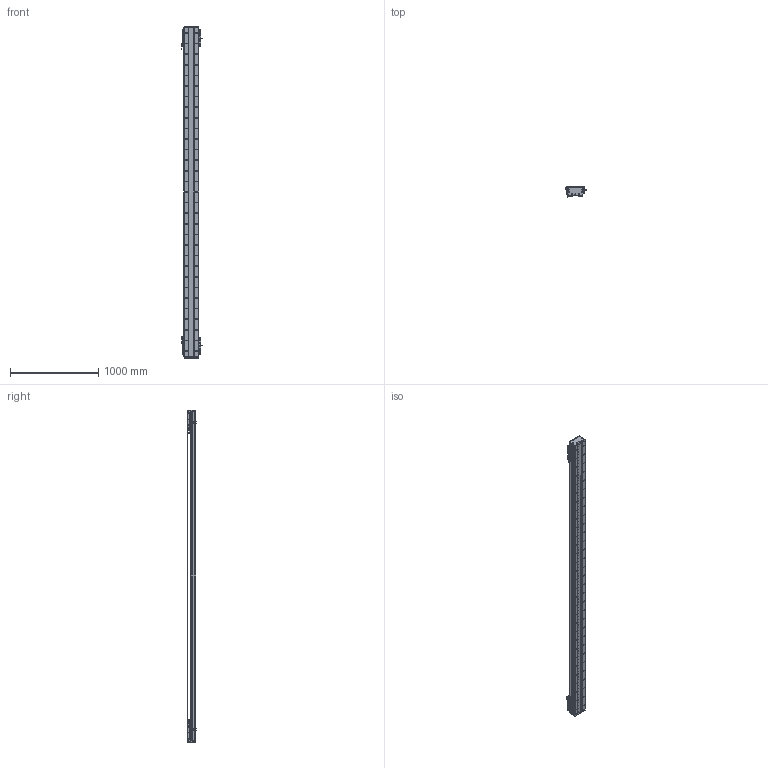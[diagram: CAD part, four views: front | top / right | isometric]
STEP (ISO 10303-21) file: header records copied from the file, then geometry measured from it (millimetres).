
FILE_DESCRIPTION (( 'STEP AP203' ), '1' );
FILE_NAME ('DA-C165-2-C2-T3260-C010-0.2 直线电机.STEP', '2023-05-11T08:35:09', ( '微软用户' ), ( '微软中国' ), 'SwSTEP 2.0', 'SolidWorks 2019', '' );
FILE_SCHEMA (( 'CONFIG_CONTROL_DESIGN' ));
Length unit declared in the file: millimetre
Products named in the file (22): 复件 CKM02-W075-C1C2-TP-3.0 一体电机-C2^DA-C165-C2-T-C010-0.2-N 直线电机; IU-CU165-L 菁釱絳寢; 复件 六角薄螺母 M3^DA-C165-C2-T-C010-0.2-N 直线电机_GB_FASTENER_NUT_STNAB M3-C; 复件 66338-1000-006-00 光电感应块^DA-C165-C2-T-C010-0.2-N 直线电机; 葩璃 DA95-GT-T-00^IU-CU165-L 菁釱絳寢_T; 复件 DMA-010-0.2 读数头^DA-C165-C2-T-C010-0.2-N 直线电机; 复件 CU165钢带组件^DA-C165-C2-T-C010-0.2-N 直线电机; 复件 DA165-GYP-00 光电感应片^DA-C165-C2-T-C010-0.2-N 直线电机; DA-C165-2-C2-T3260-C010-0.2 眻盄萇儂; 复件 DA126-GYP-ZJ-00 中间光电感应片^DA-C165-C2-T-C010-0.2-N 直线电机; 复件 DA165-GDLK-00 钢带拉块^复件 CU165钢带组件_DA-C165-C2-T-C010-0.2-N 直线电机; 葩璃 CKM01-W075-TRL^DA-C165-C2-T-C010-0.2-N 眻盄萇儂; 葩璃 PM-Y45^DA-C165-C2-T-C010-0.2-N 眻盄萇儂; 复件 XD-U-02L 磁栅尺^DA-C165-C2-T-C010-0.2-N 直线电机_T; 复件 DA95-HXJ-00 缓冲橡胶^DA-C165-C2-T-C010-0.2-N 直线电机; IU-CU165-L-00 菁釱_L3720; 葩璃 PM-T45^DA-C165-C2-T-C010-0.2-N 眻盄萇儂; 复件 DKW-HXJ-JY-00 缓冲橡胶^DA-C165-C2-T-C010-0.2-N 直线电机; 复件 DA165-GD-DG-H-00 端盖^复件 CU165钢带组件_DA-C165-C2-T-C010-0.2-N 直线电机; 复件 DA165-GDYK-00 钢带压块^复件 CU165钢带组件_DA-C165-C2-T-C010-0.2-N 直线电机; 复件 DA165-GD-1860-002-00 钢带盖板^复件 CU165钢带组件_DA-C165-C2-T-C010-0.2-N 直线电机; 珨极趙賑雄怢啣wf-C2
Assembly tree (43 placements, depth 3):
  DA-C165-2-C2-T3260-C010-0.2 眻盄萇儂
    IU-CU165-L 菁釱絳寢
      IU-CU165-L-00 菁釱_L3720
      葩璃 DA95-GT-T-00^IU-CU165-L 菁釱絳寢_T  x4
    复件 XD-U-02L 磁栅尺^DA-C165-C2-T-C010-0.2-N 直线电机_T
    葩璃 PM-T45^DA-C165-C2-T-C010-0.2-N 眻盄萇儂  x4
    葩璃 CKM01-W075-TRL^DA-C165-C2-T-C010-0.2-N 眻盄萇儂
    复件 CU165钢带组件^DA-C165-C2-T-C010-0.2-N 直线电机
      复件 DA165-GD-DG-H-00 端盖^复件 CU165钢带组件_DA-C165-C2-T-C010-0.2-N 直线电机  x2
      复件 DA165-GDYK-00 钢带压块^复件 CU165钢带组件_DA-C165-C2-T-C010-0.2-N 直线电机  x2
      复件 DA165-GD-1860-002-00 钢带盖板^复件 CU165钢带组件_DA-C165-C2-T-C010-0.2-N 直线电机
      复件 DA165-GDLK-00 钢带拉块^复件 CU165钢带组件_DA-C165-C2-T-C010-0.2-N 直线电机  x2
    复件 DA95-HXJ-00 缓冲橡胶^DA-C165-C2-T-C010-0.2-N 直线电机  x4
    复件 CKM02-W075-C1C2-TP-3.0 一体电机-C2^DA-C165-C2-T-C010-0.2-N 直线电机  x2
    复件 DMA-010-0.2 读数头^DA-C165-C2-T-C010-0.2-N 直线电机  x2
    复件 DA165-GYP-00 光电感应片^DA-C165-C2-T-C010-0.2-N 直线电机  x2
    复件 66338-1000-006-00 光电感应块^DA-C165-C2-T-C010-0.2-N 直线电机
    葩璃 PM-Y45^DA-C165-C2-T-C010-0.2-N 眻盄萇儂
    复件 DA126-GYP-ZJ-00 中间光电感应片^DA-C165-C2-T-C010-0.2-N 直线电机
    复件 DKW-HXJ-JY-00 缓冲橡胶^DA-C165-C2-T-C010-0.2-N 直线电机  x2
    复件 六角薄螺母 M3^DA-C165-C2-T-C010-0.2-N 直线电机_GB_FASTENER_NUT_STNAB M3-C  x6
    珨极趙賑雄怢啣wf-C2  x2
Bounding box: 247.2 x 111.45 x 3760 mm (x, y, z)
Volume: 21612837 mm3; surface area: 6440926.1 mm2
Topology: 119 solids, 119 shells, 6215 faces, 17992 edges, 11442 vertices
Faces by surface type: cylinder 3580, plane 1843, cone 704, torus 80, sphere 8
Entity records: 164304 total; most frequent: CARTESIAN_POINT 46461, ORIENTED_EDGE 24928, DIRECTION 23388, EDGE_CURVE 12464, AXIS2_PLACEMENT_3D 8946, VERTEX_POINT 8179, EDGE_LOOP 5611, VECTOR 5496
